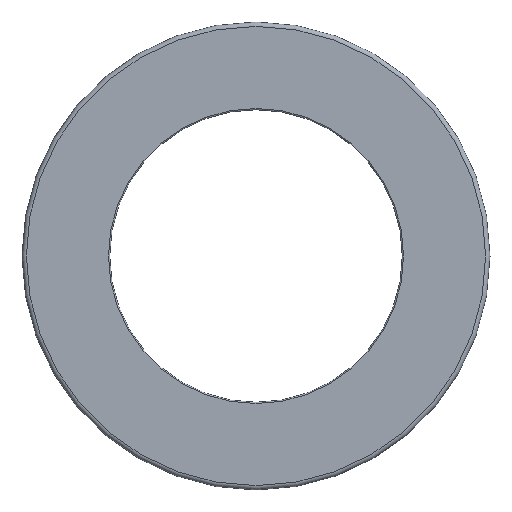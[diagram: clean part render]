
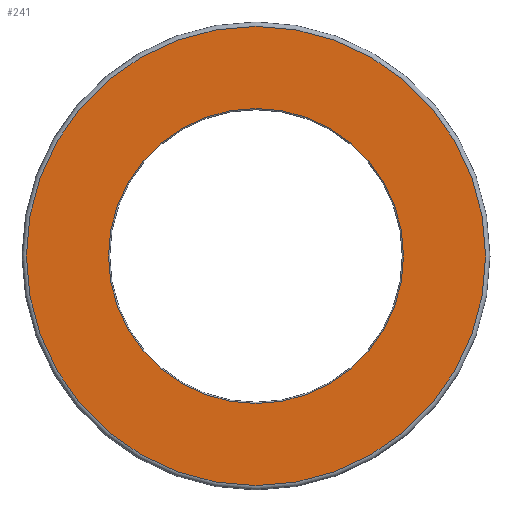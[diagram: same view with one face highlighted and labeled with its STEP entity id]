
A CAD part, left-side view. The second image highlights one B-rep face of the part: STEP entity #241.
In plain terms, the highlighted planar face has unit normal (-1, 0, 0).
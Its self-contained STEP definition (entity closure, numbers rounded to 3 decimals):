
#20=FACE_BOUND('',#67,.T.);
#24=PLANE('',#292);
#49=FACE_OUTER_BOUND('',#66,.T.);
#66=EDGE_LOOP('',(#186));
#67=EDGE_LOOP('',(#187));
#89=CIRCLE('',#288,15.7);
#92=CIRCLE('',#293,10.088);
#114=VERTEX_POINT('',#434);
#117=VERTEX_POINT('',#444);
#139=EDGE_CURVE('',#114,#114,#89,.T.);
#143=EDGE_CURVE('',#117,#117,#92,.T.);
#186=ORIENTED_EDGE('',*,*,#139,.F.);
#187=ORIENTED_EDGE('',*,*,#143,.T.);
#241=ADVANCED_FACE('',(#49,#20),#24,.T.);
#288=AXIS2_PLACEMENT_3D('',#436,#347,#348);
#292=AXIS2_PLACEMENT_3D('',#443,#356,#357);
#293=AXIS2_PLACEMENT_3D('',#445,#358,#359);
#347=DIRECTION('center_axis',(1.,0.,0.));
#348=DIRECTION('ref_axis',(0.,-1.,0.));
#356=DIRECTION('center_axis',(-1.,0.,0.));
#357=DIRECTION('ref_axis',(0.,0.,1.));
#358=DIRECTION('center_axis',(1.,0.,0.));
#359=DIRECTION('ref_axis',(0.,1.,0.));
#434=CARTESIAN_POINT('',(0.,0.,15.7));
#436=CARTESIAN_POINT('Origin',(0.,0.,
0.));
#443=CARTESIAN_POINT('Origin',(0.,13.044,0.));
#444=CARTESIAN_POINT('',(0.,0.,10.088));
#445=CARTESIAN_POINT('Origin',(0.,0.,
0.));
